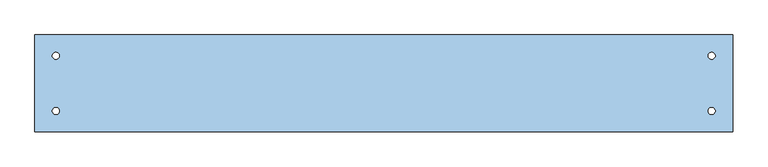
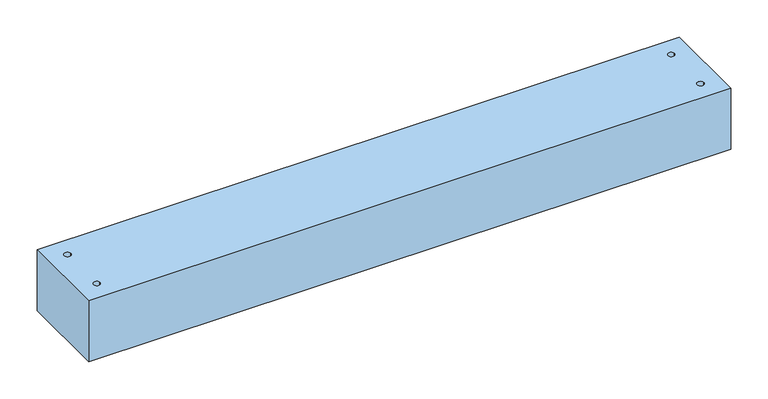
"""IFC4 building model written with IfcOpenShell, lengths in millimetres: window geometry, 30_NS_BLOk : BLOK-139/100."""

from ifc_helpers import new_model, si_unit, point, frame_2d, origin, origin_with_axes, place, context, project, spatial, polyline, circle_curve, trimmed, segment, composite_curve, outline, extrude, source, transform, mapped, element, save


def window_36b562da(model_context):
    return source(origin(), model_context, "Body", "SweptSolid", [
        extrude(outline(polyline([(0.0, -139.0), (0.0, 0.0), (1000.0, 0.0), (1000.0, -139.0), (0.0, -139.0)]), holes=[composite_curve([segment(trimmed(circle_curve(frame_2d((30.0, -109.0)), 5.0), [point((25.0, -109.0))], [point((35.0, -109.0))], True, "CARTESIAN"), True, "CONTINUOUS"), segment(trimmed(circle_curve(frame_2d((30.0, -109.0)), 5.0), [point((35.0, -109.0))], [point((25.0, -109.0))], True, "CARTESIAN"), True, "CONTINUOUS")], self_intersect=False), composite_curve([segment(trimmed(circle_curve(frame_2d((30.0, -30.0)), 5.0), [point((25.0, -30.0))], [point((35.0, -30.0))], True, "CARTESIAN"), True, "CONTINUOUS"), segment(trimmed(circle_curve(frame_2d((30.0, -30.0)), 5.0), [point((35.0, -30.0))], [point((25.0, -30.0))], True, "CARTESIAN"), True, "CONTINUOUS")], self_intersect=False), composite_curve([segment(trimmed(circle_curve(frame_2d((970.0, -109.0)), 5.0), [point((965.0, -109.0))], [point((975.0, -109.0))], True, "CARTESIAN"), True, "CONTINUOUS"), segment(trimmed(circle_curve(frame_2d((970.0, -109.0)), 5.0), [point((975.0, -109.0))], [point((965.0, -109.0))], True, "CARTESIAN"), True, "CONTINUOUS")], self_intersect=False), composite_curve([segment(trimmed(circle_curve(frame_2d((970.0, -30.0)), 5.0), [point((965.0, -30.0))], [point((975.0, -30.0))], True, "CARTESIAN"), True, "CONTINUOUS"), segment(trimmed(circle_curve(frame_2d((970.0, -30.0)), 5.0), [point((975.0, -30.0))], [point((965.0, -30.0))], True, "CARTESIAN"), True, "CONTINUOUS")], self_intersect=False)]), origin_with_axes(), (0.0, 0.0, 1.0), 100.0),
    ])


if __name__ == "__main__":
    model = new_model("IFC4")
    model_context = context("Model", 3, world=origin())
    ifc_project = project(units=[si_unit("LENGTHUNIT", "METRE", prefix="MILLI")], contexts=[model_context])
    site = spatial("IfcSite", under=ifc_project)
    building = spatial("IfcBuilding", under=site)
    placement = place(None, origin())
    window_shape = window_36b562da(model_context)
    element("IfcWindow", 1, ObjectType="30_NS_BLOk : BLOK-139/100", at=placement, inside=building, context=model_context, shape_type="MappedRepresentation", body=[
        mapped(window_shape, transform((0.0, 0.0, 0.0), x_axis=(1.0, 0.0, 0.0), y_axis=(0.0, 1.0, 0.0), z_axis=(0.0, 0.0, 1.0))),
    ])
    save(model, "model.ifc")
